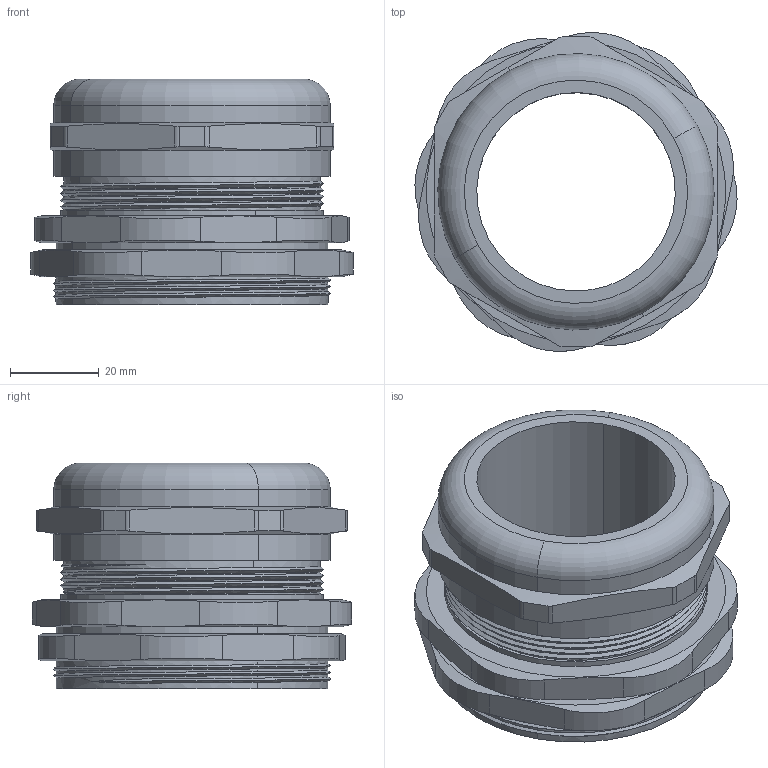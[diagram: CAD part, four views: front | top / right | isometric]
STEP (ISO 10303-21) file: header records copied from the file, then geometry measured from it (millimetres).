
FILE_DESCRIPTION(('CATIA V5 STEP Exchange'),'2;1');
FILE_NAME('C:\Users\Administrator\Desktop\m63-1.5tong.stp','2023-07-10T07:39:00+00:00',('none'),('none'),'CATIA Version 5 Release 21 GA (IN-10)','CATIA V5 STEP AP203','none');
FILE_SCHEMA(('CONFIG_CONTROL_DESIGN'));
Length unit declared in the file: millimetre
Bounding box: 72.7 x 72.01 x 51 mm (x, y, z)
Volume: 67368.8 mm3; surface area: 26167.8 mm2
Topology: 1 solids, 1 shells, 108 faces, 292 edges, 198 vertices
Faces by surface type: cylinder 55, plane 35, cone 12, bspline 4, torus 2
Entity records: 5254 total; most frequent: CARTESIAN_POINT 2904, ORIENTED_EDGE 584, DIRECTION 294, EDGE_CURVE 292, VERTEX_POINT 194, B_SPLINE_CURVE_WITH_KNOTS 144, AXIS2_PLACEMENT_3D 127, EDGE_LOOP 118
